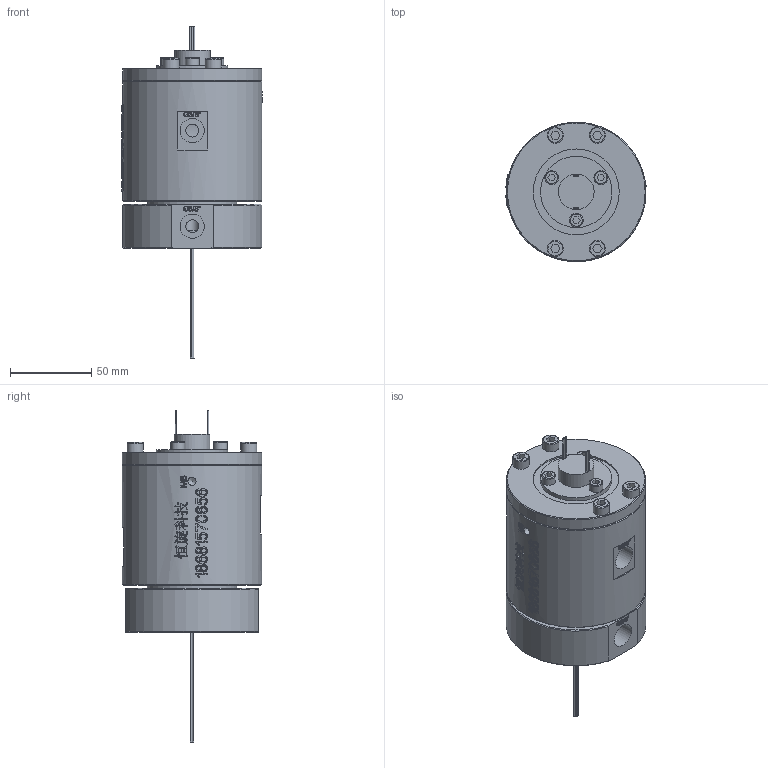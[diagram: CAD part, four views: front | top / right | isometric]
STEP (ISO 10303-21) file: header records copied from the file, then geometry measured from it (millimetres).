
FILE_DESCRIPTION(/* description */ (''),/* implementation_level */ '2;1');
FILE_NAME(/* name */ 'HQ0203-06M-3D模型.stp',/* time_stamp */ '2025-09-02T09:17:54+08:00',/* author */ (''),/* organization */ (''),/* preprocessor_version */ 'ST-DEVELOPER v16.7',/* originating_system */ 'SIEMENS PLM Software NX 12.0',/* authorisation */ '');
FILE_SCHEMA (('AUTOMOTIVE_DESIGN { 1 0 10303 214 3 1 1 1 }'));
Products named in the file (1): Admi1B40D54Expzs
Bounding box: 86.52 x 86 x 204.8 mm (x, y, z)
Volume: 627251.1 mm3; surface area: 67355.6 mm2
Topology: 1 solids, 3 shells, 1344 faces, 3641 edges, 2427 vertices
Faces by surface type: extrusion 730, plane 455, cylinder 73, bspline 58, cone 21, torus 7
Full cylindrical faces by diameter (mm): 0.8 x12, 5 x6, 7.8 x1, 8 x6, 8.5 x3, 9.4 x2, 9.5 x2, 10 x4, 15 x4, 17 x1, 22 x1, 33 x1, 33.5 x2, 44 x2, 51 x1, 52 x1, 53 x1, 55 x1, 65 x1, 86 x2
Entity records: 51145 total; most frequent: CARTESIAN_POINT 23064, ORIENTED_EDGE 7032, EDGE_CURVE 3516, B_SPLINE_CURVE_WITH_KNOTS 3425, DIRECTION 2950, VERTEX_POINT 2389, EDGE_LOOP 1553, ADVANCED_FACE 1342
